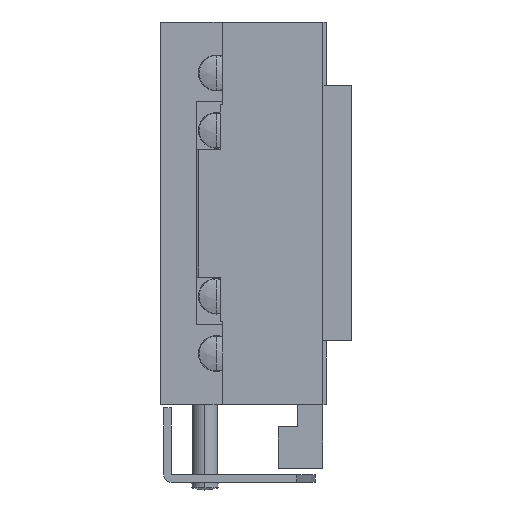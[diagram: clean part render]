
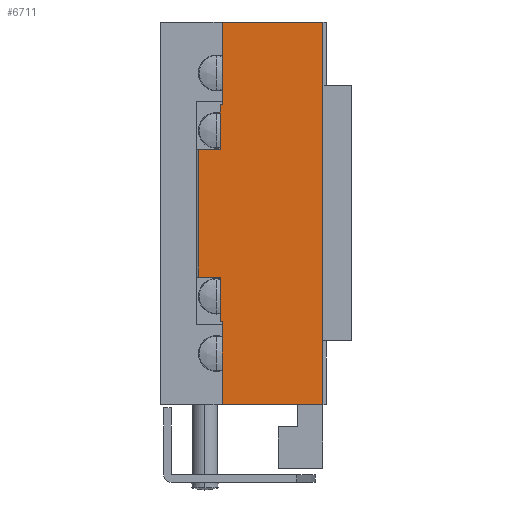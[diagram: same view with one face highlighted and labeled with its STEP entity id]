
A CAD part, left-side view. The second image highlights one B-rep face of the part: STEP entity #6711.
In plain terms, the highlighted planar face has unit normal (-1, 0, 0).
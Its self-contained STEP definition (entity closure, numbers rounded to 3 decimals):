
#45 = VERTEX_POINT ( 'NONE', #4958 ) ;
#50 = ORIENTED_EDGE ( 'NONE', *, *, #4426, .T. ) ;
#412 = CARTESIAN_POINT ( 'NONE',  ( -38., -10., 10. ) ) ;
#450 = ORIENTED_EDGE ( 'NONE', *, *, #6834, .F. ) ;
#517 = EDGE_CURVE ( 'NONE', #3045, #1420, #7064, .T. ) ;
#549 = LINE ( 'NONE', #3318, #5829 ) ;
#687 = VECTOR ( 'NONE', #1413, 1000. ) ;
#688 = PLANE ( 'NONE',  #6406 ) ;
#703 = LINE ( 'NONE', #3488, #1431 ) ;
#809 = ORIENTED_EDGE ( 'NONE', *, *, #3647, .T. ) ;
#923 = VERTEX_POINT ( 'NONE', #2513 ) ;
#1038 = EDGE_CURVE ( 'NONE', #3086, #1253, #5115, .T. ) ;
#1076 = VECTOR ( 'NONE', #4641, 1000. ) ;
#1197 = DIRECTION ( 'NONE',  ( 1., 0., 0. ) ) ;
#1250 = VECTOR ( 'NONE', #1306, 1000. ) ;
#1253 = VERTEX_POINT ( 'NONE', #4367 ) ;
#1267 = CARTESIAN_POINT ( 'NONE',  ( -38., 17., 6.325 ) ) ;
#1306 = DIRECTION ( 'NONE',  ( 0., 1., 0. ) ) ;
#1378 = CARTESIAN_POINT ( 'NONE',  ( -38., -30., 6.325 ) ) ;
#1413 = DIRECTION ( 'NONE',  ( 0., -1., 0. ) ) ;
#1420 = VERTEX_POINT ( 'NONE', #1378 ) ;
#1431 = VECTOR ( 'NONE', #4034, 1000. ) ;
#1514 = CARTESIAN_POINT ( 'NONE',  ( -38., 0., 6.325 ) ) ;
#1745 = CARTESIAN_POINT ( 'NONE',  ( -38., -10., 10. ) ) ;
#1986 = LINE ( 'NONE', #6102, #5650 ) ;
#1997 = LINE ( 'NONE', #4440, #4182 ) ;
#2091 = DIRECTION ( 'NONE',  ( 0., -1., 0. ) ) ;
#2220 = EDGE_CURVE ( 'NONE', #1420, #4119, #1997, .T. ) ;
#2260 = CARTESIAN_POINT ( 'NONE',  ( -38., -30., -9.5 ) ) ;
#2332 = DIRECTION ( 'NONE',  ( 0., 0., 1. ) ) ;
#2342 = LINE ( 'NONE', #1745, #5485 ) ;
#2364 = CARTESIAN_POINT ( 'NONE',  ( -38., 10., 6.643 ) ) ;
#2451 = VERTEX_POINT ( 'NONE', #2364 ) ;
#2513 = CARTESIAN_POINT ( 'NONE',  ( -38., -17., 6.643 ) ) ;
#2671 = VECTOR ( 'NONE', #2091, 1000. ) ;
#2752 = LINE ( 'NONE', #5785, #1076 ) ;
#2756 = EDGE_CURVE ( 'NONE', #2451, #5704, #549, .T. ) ;
#2824 = VERTEX_POINT ( 'NONE', #412 ) ;
#2838 = CARTESIAN_POINT ( 'NONE',  ( -38., -17., 6.325 ) ) ;
#2867 = CARTESIAN_POINT ( 'NONE',  ( -38., 0., 6.643 ) ) ;
#2947 = CARTESIAN_POINT ( 'NONE',  ( -38., 17., 10. ) ) ;
#2983 = CARTESIAN_POINT ( 'NONE',  ( -38., -17., 10. ) ) ;
#3045 = VERTEX_POINT ( 'NONE', #2838 ) ;
#3086 = VERTEX_POINT ( 'NONE', #1267 ) ;
#3098 = ORIENTED_EDGE ( 'NONE', *, *, #2220, .F. ) ;
#3119 = LINE ( 'NONE', #1514, #2671 ) ;
#3144 = VECTOR ( 'NONE', #3943, 1000. ) ;
#3318 = CARTESIAN_POINT ( 'NONE',  ( -38., 10., 10. ) ) ;
#3325 = CARTESIAN_POINT ( 'NONE',  ( -38., 30., -9.5 ) ) ;
#3414 = DIRECTION ( 'NONE',  ( 0., 0., -1. ) ) ;
#3477 = DIRECTION ( 'NONE',  ( 0., 0., 1. ) ) ;
#3488 = CARTESIAN_POINT ( 'NONE',  ( -38., 30., 10. ) ) ;
#3560 = DIRECTION ( 'NONE',  ( 0., 0., -1. ) ) ;
#3610 = EDGE_CURVE ( 'NONE', #923, #3045, #5905, .T. ) ;
#3647 = EDGE_CURVE ( 'NONE', #2824, #5704, #2752, .T. ) ;
#3771 = ORIENTED_EDGE ( 'NONE', *, *, #5454, .F. ) ;
#3943 = DIRECTION ( 'NONE',  ( 0., -1., 0. ) ) ;
#3955 = ORIENTED_EDGE ( 'NONE', *, *, #4520, .F. ) ;
#4034 = DIRECTION ( 'NONE',  ( 0., 0., -1. ) ) ;
#4119 = VERTEX_POINT ( 'NONE', #2260 ) ;
#4182 = VECTOR ( 'NONE', #3414, 1000. ) ;
#4324 = VERTEX_POINT ( 'NONE', #4590 ) ;
#4347 = CARTESIAN_POINT ( 'NONE',  ( -38., 10., 10. ) ) ;
#4367 = CARTESIAN_POINT ( 'NONE',  ( -38., 17., 6.643 ) ) ;
#4426 = EDGE_CURVE ( 'NONE', #45, #6512, #703, .T. ) ;
#4440 = CARTESIAN_POINT ( 'NONE',  ( -38., -30., 10. ) ) ;
#4520 = EDGE_CURVE ( 'NONE', #4119, #6512, #5002, .T. ) ;
#4556 = CARTESIAN_POINT ( 'NONE',  ( -38., -30., 10. ) ) ;
#4590 = CARTESIAN_POINT ( 'NONE',  ( -38., -10., 6.643 ) ) ;
#4619 = LINE ( 'NONE', #2867, #3144 ) ;
#4641 = DIRECTION ( 'NONE',  ( 0., 1., 0. ) ) ;
#4654 = CARTESIAN_POINT ( 'NONE',  ( -38., -30., -9.5 ) ) ;
#4958 = CARTESIAN_POINT ( 'NONE',  ( -38., 30., 6.325 ) ) ;
#5002 = LINE ( 'NONE', #4654, #1250 ) ;
#5022 = ORIENTED_EDGE ( 'NONE', *, *, #5374, .F. ) ;
#5115 = LINE ( 'NONE', #2947, #6589 ) ;
#5196 = VECTOR ( 'NONE', #3560, 1000. ) ;
#5300 = ORIENTED_EDGE ( 'NONE', *, *, #2756, .F. ) ;
#5374 = EDGE_CURVE ( 'NONE', #4324, #923, #4619, .T. ) ;
#5454 = EDGE_CURVE ( 'NONE', #2824, #4324, #2342, .T. ) ;
#5485 = VECTOR ( 'NONE', #5673, 1000. ) ;
#5542 = DIRECTION ( 'NONE',  ( 0., 0., 1. ) ) ;
#5575 = EDGE_LOOP ( 'NONE', ( #450, #50, #3955, #3098, #7074, #5769, #5022, #3771, #809, #5300, #6609, #6909 ) ) ;
#5650 = VECTOR ( 'NONE', #6049, 1000. ) ;
#5673 = DIRECTION ( 'NONE',  ( 0., 0., -1. ) ) ;
#5704 = VERTEX_POINT ( 'NONE', #4347 ) ;
#5769 = ORIENTED_EDGE ( 'NONE', *, *, #3610, .F. ) ;
#5785 = CARTESIAN_POINT ( 'NONE',  ( -38., -30., 10. ) ) ;
#5829 = VECTOR ( 'NONE', #5542, 1000. ) ;
#5858 = CARTESIAN_POINT ( 'NONE',  ( -38., 0., 6.325 ) ) ;
#5872 = EDGE_CURVE ( 'NONE', #1253, #2451, #1986, .T. ) ;
#5905 = LINE ( 'NONE', #2983, #5196 ) ;
#6049 = DIRECTION ( 'NONE',  ( 0., -1., 0. ) ) ;
#6102 = CARTESIAN_POINT ( 'NONE',  ( -38., 0., 6.643 ) ) ;
#6331 = FACE_OUTER_BOUND ( 'NONE', #5575, .T. ) ;
#6406 = AXIS2_PLACEMENT_3D ( 'NONE', #4556, #1197, #2332 ) ;
#6512 = VERTEX_POINT ( 'NONE', #3325 ) ;
#6589 = VECTOR ( 'NONE', #3477, 1000. ) ;
#6609 = ORIENTED_EDGE ( 'NONE', *, *, #5872, .F. ) ;
#6711 = ADVANCED_FACE ( 'NONE', ( #6331 ), #688, .F. ) ;
#6834 = EDGE_CURVE ( 'NONE', #45, #3086, #3119, .T. ) ;
#6909 = ORIENTED_EDGE ( 'NONE', *, *, #1038, .F. ) ;
#7064 = LINE ( 'NONE', #5858, #687 ) ;
#7074 = ORIENTED_EDGE ( 'NONE', *, *, #517, .F. ) ;
